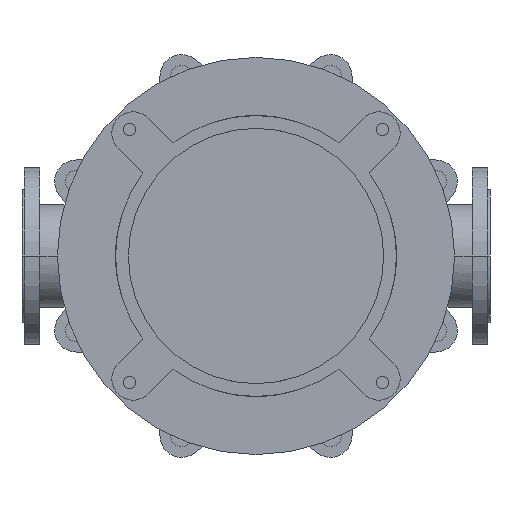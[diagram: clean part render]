
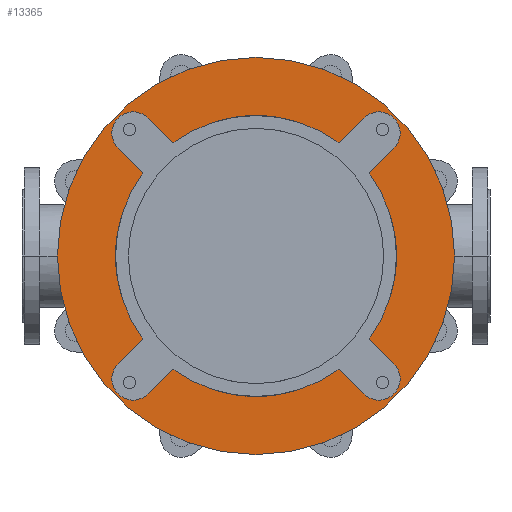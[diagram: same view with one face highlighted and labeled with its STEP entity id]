
A CAD part, front view. The second image highlights one B-rep face of the part: STEP entity #13365.
In plain terms, the highlighted planar face has unit normal (0, -1, 0).
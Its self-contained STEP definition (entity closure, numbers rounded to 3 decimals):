
#3009=CARTESIAN_POINT('',(0.,-25.,0.));
#3010=DIRECTION('',(0.,1.,0.));
#3011=DIRECTION('',(0.592,0.,-0.806));
#3012=AXIS2_PLACEMENT_3D('',#3009,#3010,#3011);
#3027=CARTESIAN_POINT('',(0.,-25.,0.));
#3028=DIRECTION('',(0.,1.,0.));
#3029=DIRECTION('',(0.806,0.,0.592));
#3030=AXIS2_PLACEMENT_3D('',#3027,#3028,#3029);
#3054=CARTESIAN_POINT('',(0.,-25.,0.));
#3055=DIRECTION('',(0.,1.,0.));
#3056=DIRECTION('',(-0.806,0.,-0.592));
#3057=AXIS2_PLACEMENT_3D('',#3054,#3055,#3056);
#3063=CARTESIAN_POINT('',(0.,-25.,0.));
#3064=DIRECTION('',(0.,1.,0.));
#3065=DIRECTION('',(-0.592,0.,0.806));
#3066=AXIS2_PLACEMENT_3D('',#3063,#3064,#3065);
#3241=CARTESIAN_POINT('',(0.,-25.,0.));
#3242=DIRECTION('',(0.,-1.,0.));
#3243=DIRECTION('',(-1.,0.,0.));
#3244=AXIS2_PLACEMENT_3D('',#3241,#3242,#3243);
#3246=CARTESIAN_POINT('',(0.,-25.,0.));
#3247=DIRECTION('',(0.,1.,0.));
#3248=DIRECTION('',(-1.,0.,0.));
#3249=AXIS2_PLACEMENT_3D('',#3246,#3247,#3248);
#3251=CARTESIAN_POINT('',(-173.241,-25.,173.241));
#3252=DIRECTION('',(0.,-1.,0.));
#3253=DIRECTION('',(0.707,0.,0.707));
#3254=AXIS2_PLACEMENT_3D('',#3251,#3252,#3253);
#3256=DIRECTION('',(0.707,0.,-0.707));
#3257=VECTOR('',#3256,49.286);
#3258=CARTESIAN_POINT('',(-194.454,-25.,152.028));
#3259=LINE('',#3258,#3257);
#3260=DIRECTION('',(-0.707,0.,-0.707));
#3261=VECTOR('',#3260,49.286);
#3262=CARTESIAN_POINT('',(-159.604,-25.,-117.178));
#3263=LINE('',#3262,#3261);
#3264=CARTESIAN_POINT('',(-173.241,-25.,-173.241));
#3265=DIRECTION('',(0.,-1.,0.));
#3266=DIRECTION('',(-0.707,0.,0.707));
#3267=AXIS2_PLACEMENT_3D('',#3264,#3265,#3266);
#3269=DIRECTION('',(0.707,0.,0.707));
#3270=VECTOR('',#3269,49.286);
#3271=CARTESIAN_POINT('',(-152.028,-25.,-194.454));
#3272=LINE('',#3271,#3270);
#3273=DIRECTION('',(0.707,0.,-0.707));
#3274=VECTOR('',#3273,49.286);
#3275=CARTESIAN_POINT('',(117.178,-25.,-159.604));
#3276=LINE('',#3275,#3274);
#3277=CARTESIAN_POINT('',(173.241,-25.,-173.241));
#3278=DIRECTION('',(0.,-1.,0.));
#3279=DIRECTION('',(-0.707,0.,-0.707));
#3280=AXIS2_PLACEMENT_3D('',#3277,#3278,#3279);
#3282=DIRECTION('',(-0.707,0.,0.707));
#3283=VECTOR('',#3282,49.286);
#3284=CARTESIAN_POINT('',(194.454,-25.,-152.028));
#3285=LINE('',#3284,#3283);
#3286=DIRECTION('',(0.707,0.,0.707));
#3287=VECTOR('',#3286,49.286);
#3288=CARTESIAN_POINT('',(159.604,-25.,117.178));
#3289=LINE('',#3288,#3287);
#3290=CARTESIAN_POINT('',(173.241,-25.,173.241));
#3291=DIRECTION('',(0.,-1.,0.));
#3292=DIRECTION('',(0.707,0.,-0.707));
#3293=AXIS2_PLACEMENT_3D('',#3290,#3291,#3292);
#3295=DIRECTION('',(-0.707,0.,-0.707));
#3296=VECTOR('',#3295,49.286);
#3297=CARTESIAN_POINT('',(152.028,-25.,194.454));
#3298=LINE('',#3297,#3296);
#3299=DIRECTION('',(-0.707,0.,0.707));
#3300=VECTOR('',#3299,49.286);
#3301=CARTESIAN_POINT('',(-117.178,-25.,159.604));
#3302=LINE('',#3301,#3300);
#8333=CARTESIAN_POINT('',(-280.,-25.,0.));
#8334=CARTESIAN_POINT('',(280.,-25.,0.));
#8335=VERTEX_POINT('',#8333);
#8336=VERTEX_POINT('',#8334);
#8357=CARTESIAN_POINT('',(-194.454,-25.,-152.028));
#8358=CARTESIAN_POINT('',(-152.028,-25.,-194.454));
#8359=VERTEX_POINT('',#8357);
#8360=VERTEX_POINT('',#8358);
#8361=CARTESIAN_POINT('',(-117.178,-25.,-159.604));
#8362=VERTEX_POINT('',#8361);
#8363=CARTESIAN_POINT('',(-159.604,-25.,-117.178));
#8364=VERTEX_POINT('',#8363);
#8373=CARTESIAN_POINT('',(152.028,-25.,-194.454));
#8374=CARTESIAN_POINT('',(194.454,-25.,-152.028));
#8375=VERTEX_POINT('',#8373);
#8376=VERTEX_POINT('',#8374);
#8377=CARTESIAN_POINT('',(159.604,-25.,-117.178));
#8378=VERTEX_POINT('',#8377);
#8379=CARTESIAN_POINT('',(117.178,-25.,-159.604));
#8380=VERTEX_POINT('',#8379);
#8389=CARTESIAN_POINT('',(194.454,-25.,152.028));
#8390=CARTESIAN_POINT('',(152.028,-25.,194.454));
#8391=VERTEX_POINT('',#8389);
#8392=VERTEX_POINT('',#8390);
#8393=CARTESIAN_POINT('',(117.178,-25.,159.604));
#8394=VERTEX_POINT('',#8393);
#8395=CARTESIAN_POINT('',(159.604,-25.,117.178));
#8396=VERTEX_POINT('',#8395);
#8405=CARTESIAN_POINT('',(-152.028,-25.,194.454));
#8406=CARTESIAN_POINT('',(-194.454,-25.,152.028));
#8407=VERTEX_POINT('',#8405);
#8408=VERTEX_POINT('',#8406);
#8409=CARTESIAN_POINT('',(-159.604,-25.,117.178));
#8410=VERTEX_POINT('',#8409);
#8411=CARTESIAN_POINT('',(-117.178,-25.,159.604));
#8412=VERTEX_POINT('',#8411);
#13325=CARTESIAN_POINT('',(0.,-25.,0.));
#13326=DIRECTION('',(0.,-1.,0.));
#13327=DIRECTION('',(-1.,0.,0.));
#13328=AXIS2_PLACEMENT_3D('',#13325,#13326,#13327);
#13329=PLANE('',#13328);
#13331=ORIENTED_EDGE('',*,*,#13330,.F.);
#13333=ORIENTED_EDGE('',*,*,#13332,.T.);
#13334=EDGE_LOOP('',(#13331,#13333));
#13335=FACE_OUTER_BOUND('',#13334,.F.);
#13337=ORIENTED_EDGE('',*,*,#13336,.T.);
#13339=ORIENTED_EDGE('',*,*,#13338,.T.);
#13340=ORIENTED_EDGE('',*,*,#13278,.F.);
#13342=ORIENTED_EDGE('',*,*,#13341,.T.);
#13344=ORIENTED_EDGE('',*,*,#13343,.T.);
#13346=ORIENTED_EDGE('',*,*,#13345,.T.);
#13347=ORIENTED_EDGE('',*,*,#13231,.F.);
#13348=ORIENTED_EDGE('',*,*,#13315,.T.);
#13350=ORIENTED_EDGE('',*,*,#13349,.T.);
#13352=ORIENTED_EDGE('',*,*,#13351,.T.);
#13353=ORIENTED_EDGE('',*,*,#13252,.F.);
#13355=ORIENTED_EDGE('',*,*,#13354,.T.);
#13357=ORIENTED_EDGE('',*,*,#13356,.T.);
#13359=ORIENTED_EDGE('',*,*,#13358,.T.);
#13360=ORIENTED_EDGE('',*,*,#13296,.F.);
#13362=ORIENTED_EDGE('',*,*,#13361,.T.);
#13363=EDGE_LOOP('',(#13337,#13339,#13340,#13342,#13344,#13346,#13347,#13348,
#13350,#13352,#13353,#13355,#13357,#13359,#13360,#13362));
#13364=FACE_BOUND('',#13363,.F.);
#13365=ADVANCED_FACE('',(#13335,#13364),#13329,.T.);
#3013=CIRCLE('',#3012,198.);
#3031=CIRCLE('',#3030,198.);
#3058=CIRCLE('',#3057,198.);
#3067=CIRCLE('',#3066,198.);
#3245=CIRCLE('',#3244,280.);
#3250=CIRCLE('',#3249,280.);
#3255=CIRCLE('',#3254,30.);
#3268=CIRCLE('',#3267,30.);
#3281=CIRCLE('',#3280,30.);
#3294=CIRCLE('',#3293,30.);
#13231=EDGE_CURVE('',#8380,#8362,#3013,.T.);
#13252=EDGE_CURVE('',#8396,#8378,#3031,.T.);
#13278=EDGE_CURVE('',#8364,#8410,#3058,.T.);
#13296=EDGE_CURVE('',#8412,#8394,#3067,.T.);
#13315=EDGE_CURVE('',#8380,#8375,#3276,.T.);
#13330=EDGE_CURVE('',#8335,#8336,#3245,.T.);
#13332=EDGE_CURVE('',#8335,#8336,#3250,.T.);
#13336=EDGE_CURVE('',#8407,#8408,#3255,.T.);
#13338=EDGE_CURVE('',#8408,#8410,#3259,.T.);
#13341=EDGE_CURVE('',#8364,#8359,#3263,.T.);
#13343=EDGE_CURVE('',#8359,#8360,#3268,.T.);
#13345=EDGE_CURVE('',#8360,#8362,#3272,.T.);
#13349=EDGE_CURVE('',#8375,#8376,#3281,.T.);
#13351=EDGE_CURVE('',#8376,#8378,#3285,.T.);
#13354=EDGE_CURVE('',#8396,#8391,#3289,.T.);
#13356=EDGE_CURVE('',#8391,#8392,#3294,.T.);
#13358=EDGE_CURVE('',#8392,#8394,#3298,.T.);
#13361=EDGE_CURVE('',#8412,#8407,#3302,.T.);
